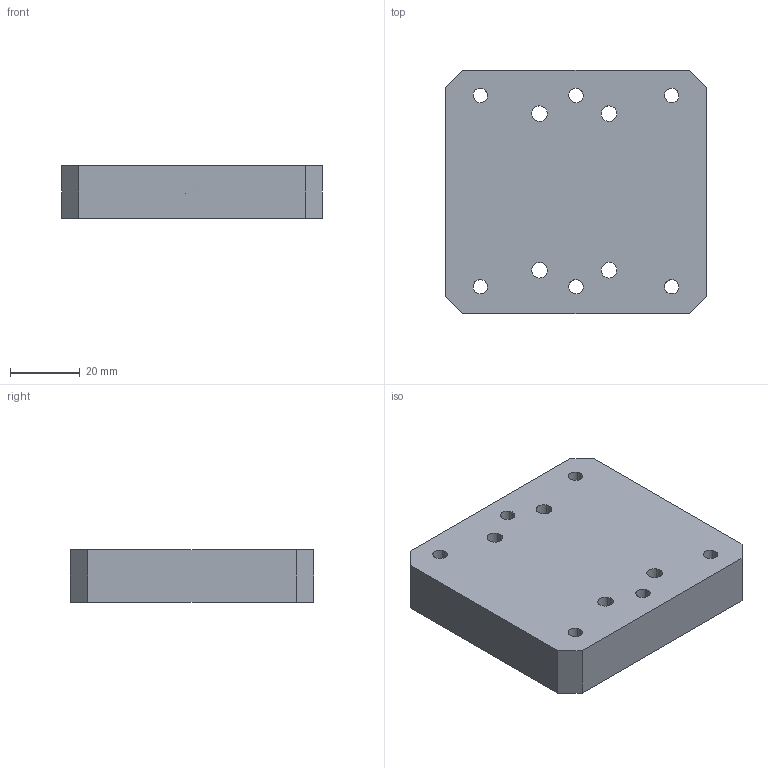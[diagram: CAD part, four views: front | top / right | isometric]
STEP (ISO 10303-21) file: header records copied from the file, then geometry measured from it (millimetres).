
FILE_DESCRIPTION(('CATIA V5 STEP Exchange'),'2;1');
FILE_NAME('D:\姚明阳\1、工装图纸\AGZ036 按压速降阀管箍锁紧工装\AGZ036.04_V1.stp','2025-08-27T06:36:00+00:00',('none'),('none'),'CATIA Version 5 Release 21 GA (IN-10)','CATIA V5 STEP AP214','none');
FILE_SCHEMA(('AUTOMOTIVE_DESIGN { 1 0 10303 214 1 1 1 1 }'));
Length unit declared in the file: millimetre
Products named in the file (1): AGZ036.04_V1
Bounding box: 75 x 70 x 15 mm (x, y, z)
Volume: 74738.2 mm3; surface area: 16654.9 mm2
Topology: 1 solids, 1 shells, 42 faces, 108 edges, 72 vertices
Faces by surface type: cylinder 28, plane 14
Entity records: 1229 total; most frequent: ORIENTED_EDGE 216, CARTESIAN_POINT 206, DIRECTION 158, EDGE_CURVE 108, AXIS2_PLACEMENT_3D 82, VERTEX_POINT 72, EDGE_LOOP 66, CIRCLE 56
